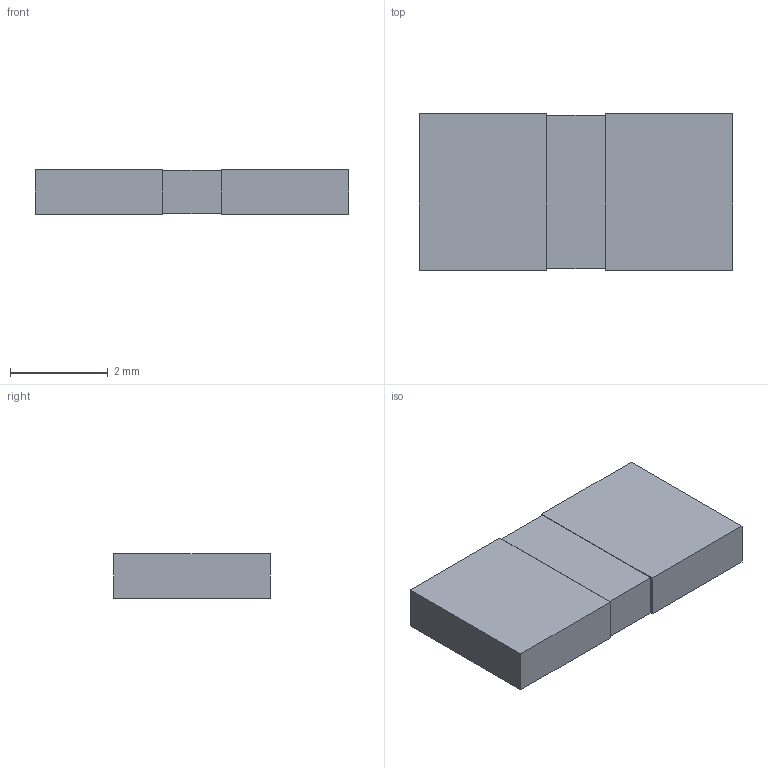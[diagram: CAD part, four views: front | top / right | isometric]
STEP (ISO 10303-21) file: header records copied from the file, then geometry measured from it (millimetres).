
FILE_DESCRIPTION(('FreeCAD Model'),'2;1');
FILE_NAME('/var/www/3D/0T/4666891.1.1.stp','2020-08-17T09:17:09',( 'Author'),(''),'Open CASCADE STEP processor 6.9','FreeCAD','Unknown' );
FILE_SCHEMA(('AUTOMOTIVE_DESIGN { 1 0 10303 214 1 1 1 1 }'));
Length unit declared in the file: millimetre
Products named in the file (4): ASSEMBLY; term1; term2; body
Assembly tree (3 placements, depth 2):
  ASSEMBLY
    term1
    term2
    body
Bounding box: 6.4 x 3.2 x 0.9 mm (x, y, z)
Volume: 18.3 mm3; surface area: 69.3 mm2
Topology: 3 solids, 3 shells, 18 faces, 36 edges, 24 vertices
Faces by surface type: plane 18
Entity records: 1020 total; most frequent: CARTESIAN_POINT 154, DIRECTION 152, LINE 108, VECTOR 108, ORIENTED_EDGE 72, PCURVE 72, DEFINITIONAL_REPRESENTATION 72, EDGE_CURVE 36
